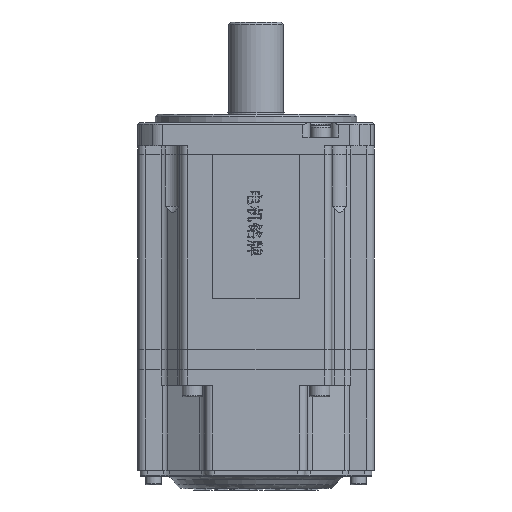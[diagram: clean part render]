
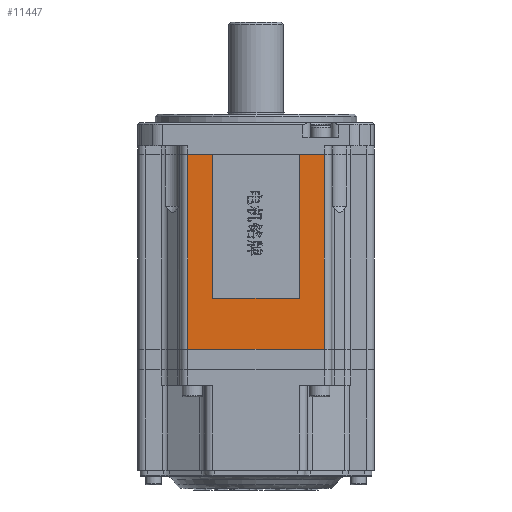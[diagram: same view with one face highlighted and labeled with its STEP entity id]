
A CAD part, front view. The second image highlights one B-rep face of the part: STEP entity #11447.
In plain terms, the highlighted planar face has unit normal (0, -1, 0).
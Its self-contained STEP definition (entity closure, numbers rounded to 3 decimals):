
#741 = EDGE_LOOP ( 'NONE', ( #27548, #80544, #60254, #1412, #21827, #29224, #21094, #50092 ) ) ;
#1412 = ORIENTED_EDGE ( 'NONE', *, *, #27922, .F. ) ;
#1695 = LINE ( 'NONE', #80414, #71854 ) ;
#3517 = DIRECTION ( 'NONE',  ( 0., 0., -1. ) ) ;
#6505 = EDGE_CURVE ( 'NONE', #41660, #27313, #70379, .T. ) ;
#6764 = CARTESIAN_POINT ( 'NONE',  ( 23.75, -41., 67.7 ) ) ;
#7905 = CARTESIAN_POINT ( 'NONE',  ( -15., -41., 17.7 ) ) ;
#8878 = CARTESIAN_POINT ( 'NONE',  ( 23.75, -41., 1000. ) ) ;
#10356 = CARTESIAN_POINT ( 'NONE',  ( -23.75, -41., 1000. ) ) ;
#11447 = ADVANCED_FACE ( 'NONE', ( #88124 ), #27707, .F. ) ;
#11463 = EDGE_CURVE ( 'NONE', #22894, #79785, #90321, .T. ) ;
#12686 = EDGE_CURVE ( 'NONE', #27313, #37542, #82096, .T. ) ;
#13271 = LINE ( 'NONE', #8878, #86790 ) ;
#13954 = CARTESIAN_POINT ( 'NONE',  ( 15., -41., 17.7 ) ) ;
#16880 = CARTESIAN_POINT ( 'NONE',  ( -198.803, -41., 67.7 ) ) ;
#18077 = CARTESIAN_POINT ( 'NONE',  ( -15., -41., 67.7 ) ) ;
#20290 = CARTESIAN_POINT ( 'NONE',  ( 15., -41., 67.7 ) ) ;
#21094 = ORIENTED_EDGE ( 'NONE', *, *, #51341, .T. ) ;
#21827 = ORIENTED_EDGE ( 'NONE', *, *, #6505, .T. ) ;
#22894 = VERTEX_POINT ( 'NONE', #6764 ) ;
#23664 = VECTOR ( 'NONE', #32132, 1000. ) ;
#25775 = DIRECTION ( 'NONE',  ( 1., 0., 0. ) ) ;
#27313 = VERTEX_POINT ( 'NONE', #52109 ) ;
#27436 = EDGE_CURVE ( 'NONE', #70704, #48612, #51117, .T. ) ;
#27548 = ORIENTED_EDGE ( 'NONE', *, *, #11463, .T. ) ;
#27707 = PLANE ( 'NONE',  #61925 ) ;
#27922 = EDGE_CURVE ( 'NONE', #41660, #70704, #1695, .T. ) ;
#29224 = ORIENTED_EDGE ( 'NONE', *, *, #12686, .T. ) ;
#29389 = DIRECTION ( 'NONE',  ( 0., 0., -1. ) ) ;
#29479 = LINE ( 'NONE', #38148, #83231 ) ;
#30444 = CARTESIAN_POINT ( 'NONE',  ( -23.75, -41., 0. ) ) ;
#32132 = DIRECTION ( 'NONE',  ( 1., 0., 0. ) ) ;
#33251 = LINE ( 'NONE', #30444, #61767 ) ;
#37542 = VERTEX_POINT ( 'NONE', #60626 ) ;
#38148 = CARTESIAN_POINT ( 'NONE',  ( 15., -41., 17.7 ) ) ;
#38209 = DIRECTION ( 'NONE',  ( 0., 0., -1. ) ) ;
#41660 = VERTEX_POINT ( 'NONE', #18077 ) ;
#42370 = DIRECTION ( 'NONE',  ( -1., 0., 0. ) ) ;
#44135 = DIRECTION ( 'NONE',  ( -1., 0., 0. ) ) ;
#47344 = VECTOR ( 'NONE', #44135, 1000. ) ;
#48573 = CARTESIAN_POINT ( 'NONE',  ( -23.75, -41., 1000. ) ) ;
#48612 = VERTEX_POINT ( 'NONE', #13954 ) ;
#49110 = CARTESIAN_POINT ( 'NONE',  ( 23.75, -41., 0. ) ) ;
#50092 = ORIENTED_EDGE ( 'NONE', *, *, #67297, .F. ) ;
#51117 = LINE ( 'NONE', #87940, #23664 ) ;
#51341 = EDGE_CURVE ( 'NONE', #37542, #73672, #33251, .T. ) ;
#52109 = CARTESIAN_POINT ( 'NONE',  ( -23.75, -41., 67.7 ) ) ;
#60254 = ORIENTED_EDGE ( 'NONE', *, *, #27436, .F. ) ;
#60626 = CARTESIAN_POINT ( 'NONE',  ( -23.75, -41., 0. ) ) ;
#61767 = VECTOR ( 'NONE', #25775, 1000. ) ;
#61925 = AXIS2_PLACEMENT_3D ( 'NONE', #48573, #63251, #76725 ) ;
#63251 = DIRECTION ( 'NONE',  ( 0., 1., 0. ) ) ;
#67297 = EDGE_CURVE ( 'NONE', #22894, #73672, #13271, .T. ) ;
#70379 = LINE ( 'NONE', #16880, #47344 ) ;
#70704 = VERTEX_POINT ( 'NONE', #7905 ) ;
#71854 = VECTOR ( 'NONE', #3517, 1000. ) ;
#73672 = VERTEX_POINT ( 'NONE', #49110 ) ;
#76184 = EDGE_CURVE ( 'NONE', #48612, #79785, #29479, .T. ) ;
#76725 = DIRECTION ( 'NONE',  ( 0., 0., 1. ) ) ;
#79785 = VERTEX_POINT ( 'NONE', #20290 ) ;
#80414 = CARTESIAN_POINT ( 'NONE',  ( -15., -41., 17.7 ) ) ;
#80544 = ORIENTED_EDGE ( 'NONE', *, *, #76184, .F. ) ;
#82096 = LINE ( 'NONE', #10356, #88747 ) ;
#83231 = VECTOR ( 'NONE', #85058, 1000. ) ;
#84854 = VECTOR ( 'NONE', #42370, 1000. ) ;
#85058 = DIRECTION ( 'NONE',  ( 0., 0., 1. ) ) ;
#86790 = VECTOR ( 'NONE', #29389, 1000. ) ;
#87940 = CARTESIAN_POINT ( 'NONE',  ( -15., -41., 17.7 ) ) ;
#88124 = FACE_OUTER_BOUND ( 'NONE', #741, .T. ) ;
#88747 = VECTOR ( 'NONE', #38209, 1000. ) ;
#90321 = LINE ( 'NONE', #90553, #84854 ) ;
#90553 = CARTESIAN_POINT ( 'NONE',  ( -198.803, -41., 67.7 ) ) ;
